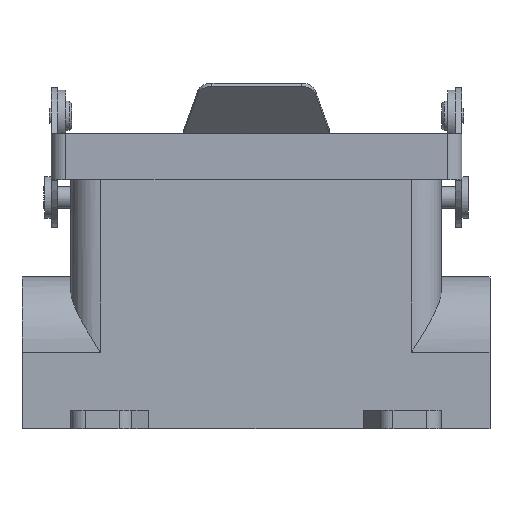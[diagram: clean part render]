
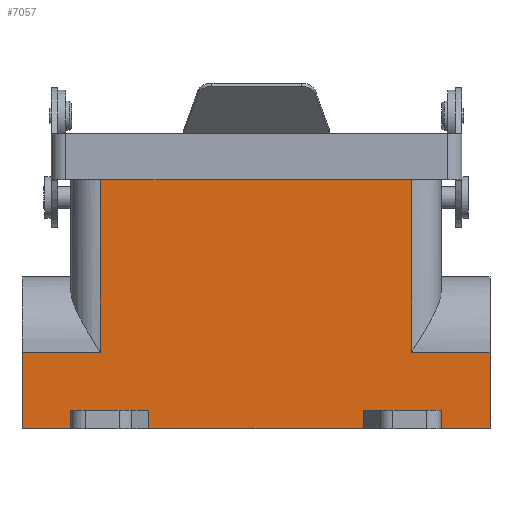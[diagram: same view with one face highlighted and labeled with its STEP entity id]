
A CAD part, top view. The second image highlights one B-rep face of the part: STEP entity #7057.
In plain terms, the highlighted planar face has unit normal (0, 0, 1).
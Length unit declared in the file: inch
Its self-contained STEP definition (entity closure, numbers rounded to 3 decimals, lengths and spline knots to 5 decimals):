
#208 = ORIENTED_EDGE ( 'NONE', *, *, #7501, .F. ) ;
#209 = ORIENTED_EDGE ( 'NONE', *, *, #7477, .T. ) ;
#226 = ORIENTED_EDGE ( 'NONE', *, *, #7480, .T. ) ;
#227 = ORIENTED_EDGE ( 'NONE', *, *, #7473, .T. ) ;
#242 = ORIENTED_EDGE ( 'NONE', *, *, #7499, .F. ) ;
#298 = ORIENTED_EDGE ( 'NONE', *, *, #7476, .T. ) ;
#302 = ORIENTED_EDGE ( 'NONE', *, *, #7463, .T. ) ;
#305 = ORIENTED_EDGE ( 'NONE', *, *, #7502, .F. ) ;
#325 = ORIENTED_EDGE ( 'NONE', *, *, #7475, .T. ) ;
#327 = ORIENTED_EDGE ( 'NONE', *, *, #7500, .F. ) ;
#330 = ORIENTED_EDGE ( 'NONE', *, *, #7469, .F. ) ;
#354 = ORIENTED_EDGE ( 'NONE', *, *, #10551, .T. ) ;
#378 = ORIENTED_EDGE ( 'NONE', *, *, #10662, .T. ) ;
#382 = ORIENTED_EDGE ( 'NONE', *, *, #10160, .F. ) ;
#383 = ORIENTED_EDGE ( 'NONE', *, *, #10668, .T. ) ;
#416 = ORIENTED_EDGE ( 'NONE', *, *, #7478, .T. ) ;
#447 = VERTEX_POINT ( 'NONE', #7203 ) ;
#485 = VERTEX_POINT ( 'NONE', #7243 ) ;
#494 = VERTEX_POINT ( 'NONE', #7227 ) ;
#523 = VERTEX_POINT ( 'NONE', #7238 ) ;
#530 = VERTEX_POINT ( 'NONE', #7226 ) ;
#773 = VERTEX_POINT ( 'NONE', #7234 ) ;
#843 = VERTEX_POINT ( 'NONE', #7166 ) ;
#844 = VERTEX_POINT ( 'NONE', #7813 ) ;
#861 = VERTEX_POINT ( 'NONE', #7818 ) ;
#968 = VERTEX_POINT ( 'NONE', #7931 ) ;
#978 = VERTEX_POINT ( 'NONE', #7930 ) ;
#1000 = VERTEX_POINT ( 'NONE', #8000 ) ;
#1008 = VERTEX_POINT ( 'NONE', #7992 ) ;
#1014 = VERTEX_POINT ( 'NONE', #7987 ) ;
#1051 = VERTEX_POINT ( 'NONE', #7983 ) ;
#1128 = VERTEX_POINT ( 'NONE', #8016 ) ;
#1812 = EDGE_LOOP ( 'NONE', ( #226, #209, #227, #298, #325, #416, #302, #305, #327, #330, #383, #242, #208, #382, #378, #354 ) ) ;
#2603 = DIRECTION ( 'NONE',  ( 1., 0., 0. ) ) ;
#2604 = CARTESIAN_POINT ( 'NONE',  ( -2.08911, -0.24788, 0.54096 ) ) ;
#2614 = CARTESIAN_POINT ( 'NONE',  ( -1.01342, -0.89788, 0.54096 ) ) ;
#2615 = DIRECTION ( 'NONE',  ( 0., 1., 0. ) ) ;
#2621 = CARTESIAN_POINT ( 'NONE',  ( -1.67342, 1.34622, 0.54096 ) ) ;
#2622 = DIRECTION ( 'NONE',  ( -1., 0., 0. ) ) ;
#2626 = DIRECTION ( 'NONE',  ( -1., 0., 0. ) ) ;
#2627 = CARTESIAN_POINT ( 'NONE',  ( -1.42342, -0.89788, 0.54096 ) ) ;
#2628 = DIRECTION ( 'NONE',  ( 0., -1., 0. ) ) ;
#2629 = CARTESIAN_POINT ( 'NONE',  ( 1.22158, -0.89788, 0.54096 ) ) ;
#2630 = DIRECTION ( 'NONE',  ( 0., 1., 0. ) ) ;
#2631 = CARTESIAN_POINT ( 'NONE',  ( -2.08911, -0.89788, 0.54096 ) ) ;
#2632 = DIRECTION ( 'NONE',  ( 0., -1., 0. ) ) ;
#2635 = CARTESIAN_POINT ( 'NONE',  ( -2.08911, -0.24788, 0.54096 ) ) ;
#2636 = DIRECTION ( 'NONE',  ( -1., 0., 0. ) ) ;
#2677 = CARTESIAN_POINT ( 'NONE',  ( 1.47158, -0.7404, 0.54096 ) ) ;
#2681 = CARTESIAN_POINT ( 'NONE',  ( 0.81158, -0.89788, 0.54096 ) ) ;
#2682 = DIRECTION ( 'NONE',  ( 0., -1., 0. ) ) ;
#2683 = CARTESIAN_POINT ( 'NONE',  ( -1.67342, -0.7404, 0.54096 ) ) ;
#2684 = DIRECTION ( 'NONE',  ( -1., 0., 0. ) ) ;
#2685 = DIRECTION ( 'NONE',  ( -1., 0., 0. ) ) ;
#2686 = CARTESIAN_POINT ( 'NONE',  ( -1.67342, -0.89788, 0.54096 ) ) ;
#2687 = DIRECTION ( 'NONE',  ( 0., -1., 0. ) ) ;
#3158 = FACE_OUTER_BOUND ( 'NONE', #1812, .T. ) ;
#3836 = CARTESIAN_POINT ( 'NONE',  ( 1.47158, -0.89788, 0.54096 ) ) ;
#3838 = DIRECTION ( 'NONE',  ( 0., 1., 0. ) ) ;
#4150 = LINE ( 'NONE', #3836, #4153 ) ;
#4153 = VECTOR ( 'NONE', #3838, 39.37008 ) ;
#4293 = LINE ( 'NONE', #4573, #4295 ) ;
#4295 = VECTOR ( 'NONE', #4578, 39.37008 ) ;
#4456 = LINE ( 'NONE', #4908, #4458 ) ;
#4458 = VECTOR ( 'NONE', #4909, 39.37008 ) ;
#4466 = LINE ( 'NONE', #4929, #4469 ) ;
#4469 = VECTOR ( 'NONE', #4930, 39.37008 ) ;
#4573 = CARTESIAN_POINT ( 'NONE',  ( 1.88727, 0.39212, 0.54096 ) ) ;
#4578 = DIRECTION ( 'NONE',  ( 0., 1., 0. ) ) ;
#4908 = CARTESIAN_POINT ( 'NONE',  ( 1.88727, -0.89788, 0.54096 ) ) ;
#4909 = DIRECTION ( 'NONE',  ( 1., 0., 0. ) ) ;
#4929 = CARTESIAN_POINT ( 'NONE',  ( 1.88727, -0.89788, 0.54096 ) ) ;
#4930 = DIRECTION ( 'NONE',  ( 1., 0., 0. ) ) ;
#7057 = ADVANCED_FACE ( 'NONE', ( #3158 ), #10445, .F. ) ;
#7166 = CARTESIAN_POINT ( 'NONE',  ( -1.01342, -0.7404, 0.54096 ) ) ;
#7203 = CARTESIAN_POINT ( 'NONE',  ( 1.88727, -0.89788, 0.54096 ) ) ;
#7226 = CARTESIAN_POINT ( 'NONE',  ( 1.47158, -0.89788, 0.54096 ) ) ;
#7227 = CARTESIAN_POINT ( 'NONE',  ( -2.08911, -0.89788, 0.54096 ) ) ;
#7234 = CARTESIAN_POINT ( 'NONE',  ( 1.22158, -0.24788, 0.54096 ) ) ;
#7238 = CARTESIAN_POINT ( 'NONE',  ( 1.88727, -0.24788, 0.54096 ) ) ;
#7243 = CARTESIAN_POINT ( 'NONE',  ( -1.01342, -0.89788, 0.54096 ) ) ;
#7463 = EDGE_CURVE ( 'NONE', #494, #861, #10805, .T. ) ;
#7469 = EDGE_CURVE ( 'NONE', #485, #843, #10815, .T. ) ;
#7473 = EDGE_CURVE ( 'NONE', #844, #968, #10823, .T. ) ;
#7475 = EDGE_CURVE ( 'NONE', #1128, #978, #10817, .T. ) ;
#7476 = EDGE_CURVE ( 'NONE', #968, #1128, #10829, .T. ) ;
#7477 = EDGE_CURVE ( 'NONE', #773, #844, #10831, .T. ) ;
#7478 = EDGE_CURVE ( 'NONE', #978, #494, #10833, .T. ) ;
#7480 = EDGE_CURVE ( 'NONE', #523, #773, #10837, .T. ) ;
#7499 = EDGE_CURVE ( 'NONE', #1000, #1014, #10867, .T. ) ;
#7500 = EDGE_CURVE ( 'NONE', #843, #1008, #10869, .T. ) ;
#7501 = EDGE_CURVE ( 'NONE', #1051, #1000, #10863, .T. ) ;
#7502 = EDGE_CURVE ( 'NONE', #1008, #861, #10873, .T. ) ;
#7813 = CARTESIAN_POINT ( 'NONE',  ( 1.22158, 1.34622, 0.54096 ) ) ;
#7818 = CARTESIAN_POINT ( 'NONE',  ( -1.67342, -0.89788, 0.54096 ) ) ;
#7930 = CARTESIAN_POINT ( 'NONE',  ( -2.08911, -0.24788, 0.54096 ) ) ;
#7931 = CARTESIAN_POINT ( 'NONE',  ( -1.42342, 1.34622, 0.54096 ) ) ;
#7983 = CARTESIAN_POINT ( 'NONE',  ( 1.47158, -0.7404, 0.54096 ) ) ;
#7987 = CARTESIAN_POINT ( 'NONE',  ( 0.81158, -0.89788, 0.54096 ) ) ;
#7992 = CARTESIAN_POINT ( 'NONE',  ( -1.67342, -0.7404, 0.54096 ) ) ;
#8000 = CARTESIAN_POINT ( 'NONE',  ( 0.81158, -0.7404, 0.54096 ) ) ;
#8016 = CARTESIAN_POINT ( 'NONE',  ( -1.42342, -0.24788, 0.54096 ) ) ;
#10052 = AXIS2_PLACEMENT_3D ( 'NONE', #10466, #10467, #10468 ) ;
#10160 = EDGE_CURVE ( 'NONE', #530, #1051, #4150, .T. ) ;
#10445 = PLANE ( 'NONE',  #10052 ) ;
#10466 = CARTESIAN_POINT ( 'NONE',  ( -2.08911, -0.89788, 0.54096 ) ) ;
#10467 = DIRECTION ( 'NONE',  ( 0., 0., -1. ) ) ;
#10468 = DIRECTION ( 'NONE',  ( -1., 0., 0. ) ) ;
#10527 = CARTESIAN_POINT ( 'NONE',  ( 1.88727, -0.89788, 0.54096 ) ) ;
#10551 = EDGE_CURVE ( 'NONE', #447, #523, #4293, .T. ) ;
#10662 = EDGE_CURVE ( 'NONE', #530, #447, #4456, .T. ) ;
#10668 = EDGE_CURVE ( 'NONE', #485, #1014, #4466, .T. ) ;
#10805 = LINE ( 'NONE', #10527, #10806 ) ;
#10806 = VECTOR ( 'NONE', #2603, 39.37008 ) ;
#10815 = LINE ( 'NONE', #2614, #10818 ) ;
#10817 = LINE ( 'NONE', #2604, #10830 ) ;
#10818 = VECTOR ( 'NONE', #2615, 39.37008 ) ;
#10823 = LINE ( 'NONE', #2621, #10826 ) ;
#10826 = VECTOR ( 'NONE', #2622, 39.37008 ) ;
#10829 = LINE ( 'NONE', #2627, #10832 ) ;
#10830 = VECTOR ( 'NONE', #2626, 39.37008 ) ;
#10831 = LINE ( 'NONE', #2629, #10834 ) ;
#10832 = VECTOR ( 'NONE', #2628, 39.37008 ) ;
#10833 = LINE ( 'NONE', #2631, #10836 ) ;
#10834 = VECTOR ( 'NONE', #2630, 39.37008 ) ;
#10836 = VECTOR ( 'NONE', #2632, 39.37008 ) ;
#10837 = LINE ( 'NONE', #2635, #10840 ) ;
#10840 = VECTOR ( 'NONE', #2636, 39.37008 ) ;
#10863 = LINE ( 'NONE', #2677, #10874 ) ;
#10867 = LINE ( 'NONE', #2681, #10870 ) ;
#10869 = LINE ( 'NONE', #2683, #10872 ) ;
#10870 = VECTOR ( 'NONE', #2682, 39.37008 ) ;
#10872 = VECTOR ( 'NONE', #2684, 39.37008 ) ;
#10873 = LINE ( 'NONE', #2686, #10876 ) ;
#10874 = VECTOR ( 'NONE', #2685, 39.37008 ) ;
#10876 = VECTOR ( 'NONE', #2687, 39.37008 ) ;
